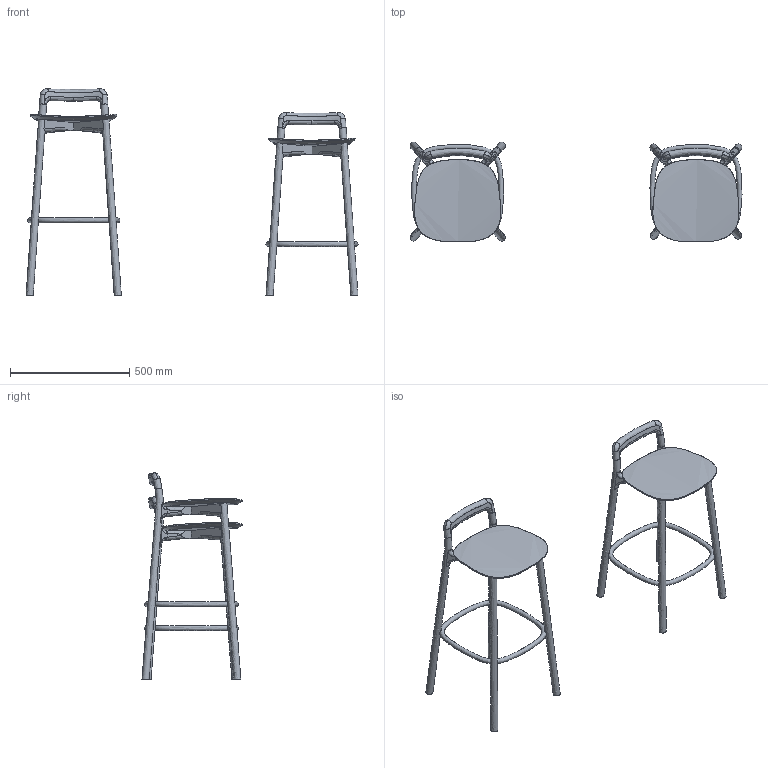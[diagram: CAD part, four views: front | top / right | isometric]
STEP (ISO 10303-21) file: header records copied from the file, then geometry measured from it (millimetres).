
FILE_DESCRIPTION(/* description */ (''),/* implementation_level */ '2;1');
FILE_NAME(/* name */ 'MC02_B~1',/* time_stamp */ '2021-04-08T18:14:04+02:00',/* author */ (''),/* organization */ (''),/* preprocessor_version */ 'ST-DEVELOPER v16.5',/* originating_system */ '',/* authorisation */ '');
FILE_SCHEMA (('AUTOMOTIVE_DESIGN'));
Length unit declared in the file: millimetre
Products named in the file (1): Document
Bounding box: 1393.24 x 419.97 x 865.83 mm (x, y, z)
Volume: 777800.9 mm3; surface area: 1406162.9 mm2
Topology: 2 solids, 184 shells, 184 faces, 898 edges, 866 vertices
Faces by surface type: bspline 184
Entity records: 82772 total; most frequent: CARTESIAN_POINT 74883, B_SPLINE_CURVE_WITH_KNOTS 1292, ORIENTED_EDGE 916, PCURVE 916, DEFINITIONAL_REPRESENTATION 916, SURFACE_CURVE 892, EDGE_CURVE 892, VERTEX_POINT 858
